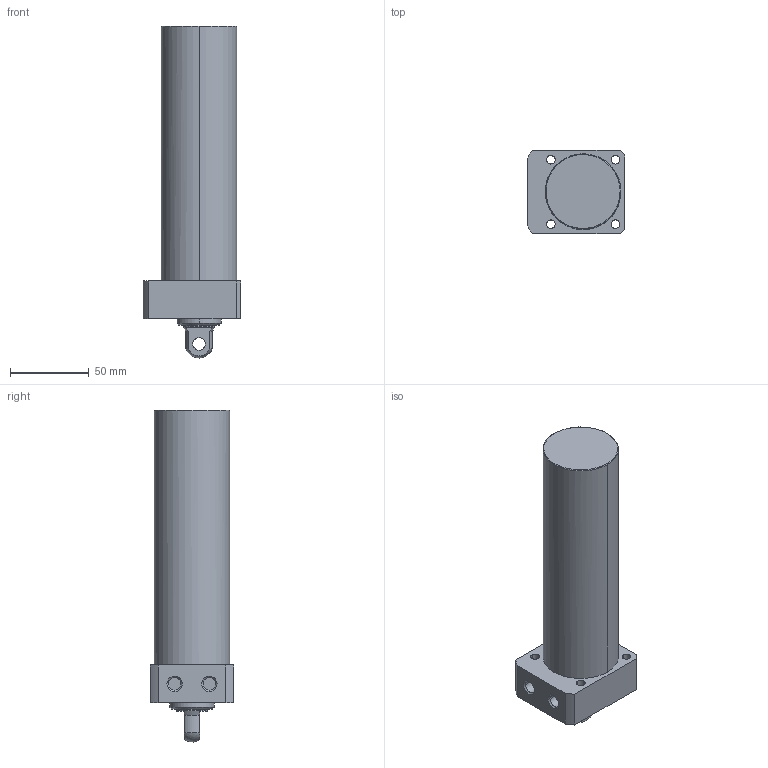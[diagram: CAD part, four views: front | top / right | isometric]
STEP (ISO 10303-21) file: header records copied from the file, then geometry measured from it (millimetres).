
FILE_DESCRIPTION((' '),'2;1');
FILE_NAME( 'TLLR-048CP-135.STEP.stp', '2025-10-24T16:34:41', (' '), ('--- Datakit www.datakit.com---'), ' Datakit CrossCadWare V2024.1 Dec 21 2023', 'Mastercam 2025', ' ');
FILE_SCHEMA(('AUTOMOTIVE_DESIGN { 1 0 10303 214 1 1 1 1 }'));
Length unit declared in the file: millimetre
Products named in the file (1): TLLR-048CP-135
Bounding box: 62 x 53 x 210.94 mm (x, y, z)
Volume: 372635.9 mm3; surface area: 39835.5 mm2
Topology: 1 solids, 1 shells, 57 faces, 164 edges, 116 vertices
Faces by surface type: cylinder 28, plane 18, cone 8, torus 2, sphere 1
Entity records: 2006 total; most frequent: DIRECTION 378, CARTESIAN_POINT 350, ORIENTED_EDGE 328, EDGE_CURVE 164, AXIS2_PLACEMENT_3D 160, VERTEX_POINT 116, CIRCLE 102, EDGE_LOOP 74
